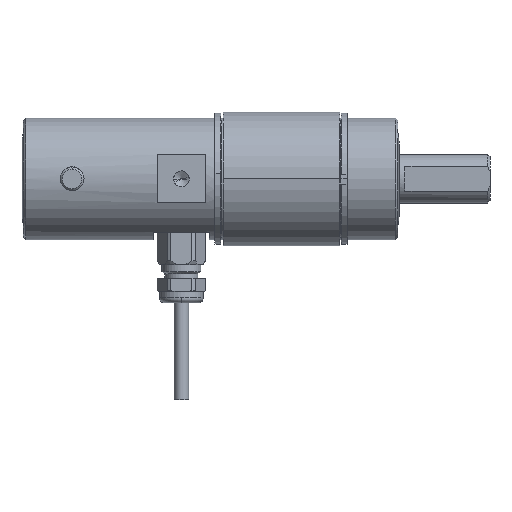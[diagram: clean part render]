
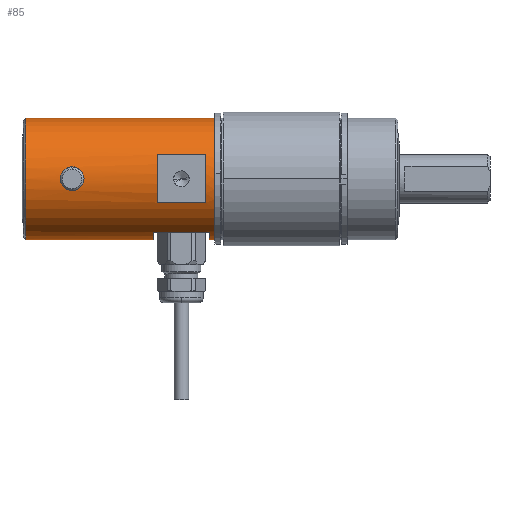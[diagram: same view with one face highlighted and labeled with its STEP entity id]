
A CAD part, top view. The second image highlights one B-rep face of the part: STEP entity #85.
In plain terms, the highlighted cylindrical face has radius 12.5 mm (diameter 25 mm), a partial arc.
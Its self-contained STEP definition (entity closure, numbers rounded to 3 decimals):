
#85=ADVANCED_FACE('',(#253,#254,#255),#256,.T.);
#253=FACE_BOUND('',#653,.T.);
#254=FACE_BOUND('',#654,.T.);
#255=FACE_OUTER_BOUND('',#655,.T.);
#256=CYLINDRICAL_SURFACE('',#656,12.5);
#653=EDGE_LOOP('',(#1112,#1113,#1114));
#654=EDGE_LOOP('',(#1115,#1116,#1117,#1118));
#655=EDGE_LOOP('',(#1119,#1120,#1121,#1122,#1123,#1124,#1125,#1126));
#656=AXIS2_PLACEMENT_3D('',#1127,#1128,#1129);
#1112=ORIENTED_EDGE('',*,*,#2329,.T.);
#1113=ORIENTED_EDGE('',*,*,#2330,.T.);
#1114=ORIENTED_EDGE('',*,*,#2331,.T.);
#1115=ORIENTED_EDGE('',*,*,#2332,.T.);
#1116=ORIENTED_EDGE('',*,*,#2333,.T.);
#1117=ORIENTED_EDGE('',*,*,#2334,.T.);
#1118=ORIENTED_EDGE('',*,*,#2335,.T.);
#1119=ORIENTED_EDGE('',*,*,#2336,.F.);
#1120=ORIENTED_EDGE('',*,*,#2337,.F.);
#1121=ORIENTED_EDGE('',*,*,#2338,.F.);
#1122=ORIENTED_EDGE('',*,*,#2339,.T.);
#1123=ORIENTED_EDGE('',*,*,#2340,.T.);
#1124=ORIENTED_EDGE('',*,*,#2341,.T.);
#1125=ORIENTED_EDGE('',*,*,#2342,.F.);
#1126=ORIENTED_EDGE('',*,*,#2343,.F.);
#1127=CARTESIAN_POINT('',(-8.813,0.0,0.0));
#1128=DIRECTION('',(1.0,0.0,0.0));
#1129=DIRECTION('',(0.0,1.0,0.0));
#2329=EDGE_CURVE('',#2771,#2772,#2773,.T.);
#2330=EDGE_CURVE('',#2772,#2774,#2775,.T.);
#2331=EDGE_CURVE('',#2774,#2771,#2776,.T.);
#2332=EDGE_CURVE('',#2777,#2778,#2779,.T.);
#2333=EDGE_CURVE('',#2778,#2780,#2781,.T.);
#2334=EDGE_CURVE('',#2780,#2782,#2783,.T.);
#2335=EDGE_CURVE('',#2782,#2777,#2784,.T.);
#2336=EDGE_CURVE('',#2785,#2786,#2787,.T.);
#2337=EDGE_CURVE('',#2788,#2785,#2789,.T.);
#2338=EDGE_CURVE('',#2790,#2788,#2791,.T.);
#2339=EDGE_CURVE('',#2790,#2792,#2793,.T.);
#2340=EDGE_CURVE('',#2792,#2794,#2795,.T.);
#2341=EDGE_CURVE('',#2794,#2796,#2797,.T.);
#2342=EDGE_CURVE('',#2798,#2796,#2799,.T.);
#2343=EDGE_CURVE('',#2786,#2798,#2800,.T.);
#2771=VERTEX_POINT('',#3522);
#2772=VERTEX_POINT('',#3523);
#2773=B_SPLINE_CURVE_WITH_KNOTS('',3,(#3524,#3525,#3526,#3527,#3528,#3529,#3530,#3531,#3532,#3533),.UNSPECIFIED.,.F.,.F.,(4,2,2,2,4),(0.0,0.093,0.186,0.279,0.371),.UNSPECIFIED.);
#2774=VERTEX_POINT('',#3534);
#2775=B_SPLINE_CURVE_WITH_KNOTS('',3,(#3535,#3536,#3537,#3538,#3539,#3540,#3541,#3542,#3543,#3544,#3545,#3546,#3547,#3548,#3549,#3550,#3551,#3552),.UNSPECIFIED.,.F.,.F.,(4,2,2,2,2,2,2,2,4),(0.371,0.464,0.557,0.65,0.743,0.836,0.929,1.022,1.114),.UNSPECIFIED.);
#2776=B_SPLINE_CURVE_WITH_KNOTS('',3,(#3553,#3554,#3555,#3556,#3557,#3558,#3559,#3560,#3561,#3562),.UNSPECIFIED.,.F.,.F.,(4,2,2,2,4),(1.114,1.207,1.3,1.393,1.486),.UNSPECIFIED.);
#2777=VERTEX_POINT('',#3563);
#2778=VERTEX_POINT('',#3564);
#2779=CIRCLE('',#3565,12.5);
#2780=VERTEX_POINT('',#3566);
#2781=LINE('',#3567,#3568);
#2782=VERTEX_POINT('',#3569);
#2783=CIRCLE('',#3570,12.5);
#2784=LINE('',#3571,#3572);
#2785=VERTEX_POINT('',#3573);
#2786=VERTEX_POINT('',#3574);
#2787=LINE('',#3575,#3576);
#2788=VERTEX_POINT('',#3577);
#2789=CIRCLE('',#3578,12.5);
#2790=VERTEX_POINT('',#3579);
#2791=LINE('',#3580,#3581);
#2792=VERTEX_POINT('',#3582);
#2793=CIRCLE('',#3583,12.5);
#2794=VERTEX_POINT('',#3584);
#2795=LINE('',#3585,#3586);
#2796=VERTEX_POINT('',#3587);
#2797=CIRCLE('',#3588,12.5);
#2798=VERTEX_POINT('',#3589);
#2799=LINE('',#3590,#3591);
#2800=CIRCLE('',#3592,12.5);
#3522=CARTESIAN_POINT('',(-18.463,-2.459,12.256));
#3523=CARTESIAN_POINT('',(-20.921,0.,12.5));
#3524=CARTESIAN_POINT('',(-18.463,-2.459,12.256));
#3525=CARTESIAN_POINT('',(-18.772,-2.459,12.256));
#3526=CARTESIAN_POINT('',(-19.102,-2.396,12.269));
#3527=CARTESIAN_POINT('',(-19.707,-2.145,12.315));
#3528=CARTESIAN_POINT('',(-19.983,-1.956,12.348));
#3529=CARTESIAN_POINT('',(-20.419,-1.521,12.409));
#3530=CARTESIAN_POINT('',(-20.608,-1.245,12.442));
#3531=CARTESIAN_POINT('',(-20.859,-0.639,12.487));
#3532=CARTESIAN_POINT('',(-20.921,-0.31,12.5));
#3533=CARTESIAN_POINT('',(-20.921,0.,12.5));
#3534=CARTESIAN_POINT('',(-16.004,0.,12.5));
#3535=CARTESIAN_POINT('',(-20.921,0.,12.5));
#3536=CARTESIAN_POINT('',(-20.921,0.31,12.5));
#3537=CARTESIAN_POINT('',(-20.859,0.639,12.487));
#3538=CARTESIAN_POINT('',(-20.608,1.245,12.442));
#3539=CARTESIAN_POINT('',(-20.419,1.521,12.409));
#3540=CARTESIAN_POINT('',(-19.983,1.956,12.348));
#3541=CARTESIAN_POINT('',(-19.707,2.145,12.315));
#3542=CARTESIAN_POINT('',(-19.102,2.396,12.269));
#3543=CARTESIAN_POINT('',(-18.772,2.459,12.256));
#3544=CARTESIAN_POINT('',(-18.153,2.459,12.256));
#3545=CARTESIAN_POINT('',(-17.823,2.396,12.269));
#3546=CARTESIAN_POINT('',(-17.218,2.145,12.315));
#3547=CARTESIAN_POINT('',(-16.942,1.956,12.348));
#3548=CARTESIAN_POINT('',(-16.506,1.521,12.409));
#3549=CARTESIAN_POINT('',(-16.317,1.245,12.442));
#3550=CARTESIAN_POINT('',(-16.066,0.639,12.487));
#3551=CARTESIAN_POINT('',(-16.004,0.31,12.5));
#3552=CARTESIAN_POINT('',(-16.004,0.,12.5));
#3553=CARTESIAN_POINT('',(-16.004,0.,12.5));
#3554=CARTESIAN_POINT('',(-16.004,-0.31,12.5));
#3555=CARTESIAN_POINT('',(-16.066,-0.639,12.487));
#3556=CARTESIAN_POINT('',(-16.317,-1.245,12.442));
#3557=CARTESIAN_POINT('',(-16.506,-1.521,12.409));
#3558=CARTESIAN_POINT('',(-16.942,-1.956,12.348));
#3559=CARTESIAN_POINT('',(-17.218,-2.145,12.315));
#3560=CARTESIAN_POINT('',(-17.823,-2.396,12.269));
#3561=CARTESIAN_POINT('',(-18.153,-2.459,12.256));
#3562=CARTESIAN_POINT('',(-18.463,-2.459,12.256));
#3563=CARTESIAN_POINT('',(-0.963,-4.899,11.5));
#3564=CARTESIAN_POINT('',(-0.963,4.899,11.5));
#3565=AXIS2_PLACEMENT_3D('',#4743,#4744,#4745);
#3566=CARTESIAN_POINT('',(9.037,4.899,11.5));
#3567=CARTESIAN_POINT('',(-0.963,4.899,11.5));
#3568=VECTOR('',#4746,10.0);
#3569=CARTESIAN_POINT('',(9.037,-4.899,11.5));
#3570=AXIS2_PLACEMENT_3D('',#4747,#4748,#4749);
#3571=CARTESIAN_POINT('',(9.037,-4.899,11.5));
#3572=VECTOR('',#4750,10.0);
#3573=CARTESIAN_POINT('',(-27.963,12.5,0.));
#3574=CARTESIAN_POINT('',(10.837,12.5,0.0));
#3575=CARTESIAN_POINT('',(-8.813,12.5,0.));
#3576=VECTOR('',#4751,1.0);
#3577=CARTESIAN_POINT('',(-27.963,-12.5,0.));
#3578=AXIS2_PLACEMENT_3D('',#4752,#4753,#4754);
#3579=CARTESIAN_POINT('',(-1.713,-12.5,0.));
#3580=CARTESIAN_POINT('',(-8.813,-12.5,0.));
#3581=VECTOR('',#4755,1.0);
#3582=CARTESIAN_POINT('',(-1.713,-11.0,5.937));
#3583=AXIS2_PLACEMENT_3D('',#4756,#4757,#4758);
#3584=CARTESIAN_POINT('',(9.787,-11.0,5.937));
#3585=CARTESIAN_POINT('',(-1.713,-11.0,5.937));
#3586=VECTOR('',#4759,11.5);
#3587=CARTESIAN_POINT('',(9.787,-12.5,0.));
#3588=AXIS2_PLACEMENT_3D('',#4760,#4761,#4762);
#3589=CARTESIAN_POINT('',(10.837,-12.5,0.));
#3590=CARTESIAN_POINT('',(-8.813,-12.5,0.));
#3591=VECTOR('',#4763,1.0);
#3592=AXIS2_PLACEMENT_3D('',#4764,#4765,#4766);
#4743=CARTESIAN_POINT('',(-0.963,0.0,0.0));
#4744=DIRECTION('',(-1.0,0.0,0.0));
#4745=DIRECTION('',(0.0,1.0,0.0));
#4746=DIRECTION('',(1.0,0.0,0.0));
#4747=CARTESIAN_POINT('',(9.037,0.0,0.0));
#4748=DIRECTION('',(1.0,0.0,0.0));
#4749=DIRECTION('',(0.0,1.0,0.0));
#4750=DIRECTION('',(-1.0,0.0,0.0));
#4751=DIRECTION('',(1.0,0.0,0.0));
#4752=CARTESIAN_POINT('',(-27.963,0.0,0.0));
#4753=DIRECTION('',(-1.0,0.0,0.0));
#4754=DIRECTION('',(0.0,-1.0,0.0));
#4755=DIRECTION('',(-1.0,0.0,0.0));
#4756=CARTESIAN_POINT('',(-1.713,0.0,0.0));
#4757=DIRECTION('',(-1.0,0.0,0.0));
#4758=DIRECTION('',(0.0,1.0,0.0));
#4759=DIRECTION('',(1.0,0.0,0.0));
#4760=CARTESIAN_POINT('',(9.787,0.0,0.0));
#4761=DIRECTION('',(1.0,0.0,0.0));
#4762=DIRECTION('',(0.0,1.0,0.0));
#4763=DIRECTION('',(-1.0,0.0,0.0));
#4764=CARTESIAN_POINT('',(10.837,0.0,0.0));
#4765=DIRECTION('',(1.0,0.0,0.0));
#4766=DIRECTION('',(0.0,1.0,0.0));
